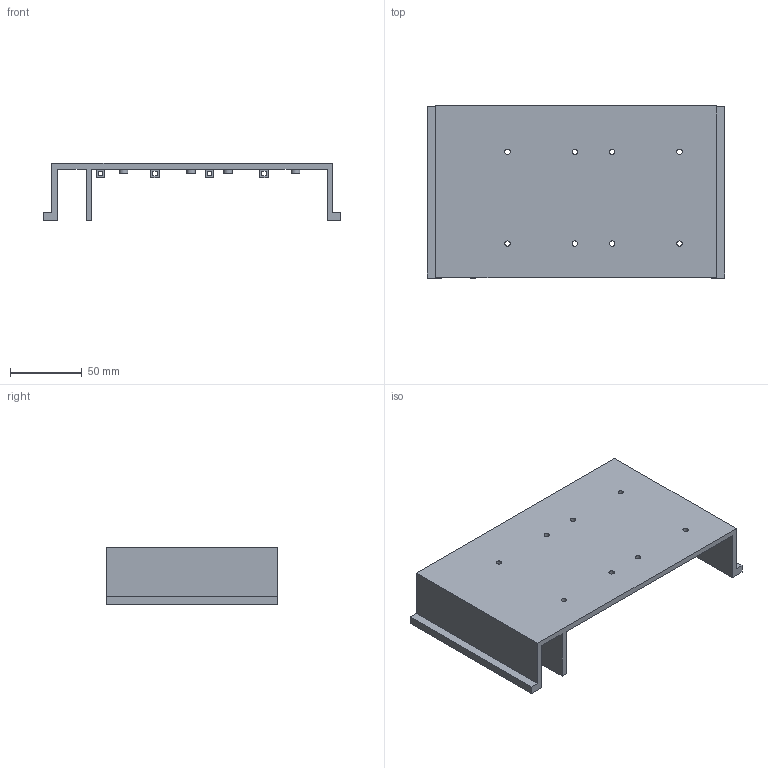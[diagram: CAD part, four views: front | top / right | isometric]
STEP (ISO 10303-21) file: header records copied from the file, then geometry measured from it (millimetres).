
FILE_DESCRIPTION(/* description */ (''),/* implementation_level */ '2;1');
FILE_NAME(/* name */ '/Users/davidflorian/Library/Mobile Documents/com~apple~CloudDocs/Vanderbilt/Papers/OTTO/Supplemental Material/3D-Printable-Components-STEP-Files/Electronics-Tray-3.step',/* time_stamp */ '2020-06-30T23:20:54-05:00',/* author */ (''),/* organization */ (''),/* preprocessor_version */ 'ST-DEVELOPER v18.1',/* originating_system */ 'Autodesk Translation Framework v9.3.0.1241',/* authorisation */ '');
FILE_SCHEMA (('AUTOMOTIVE_DESIGN { 1 0 10303 214 3 1 1 }'));
Length unit declared in the file: millimetre
Products named in the file (1): Electronics-Tray-3
Bounding box: 207.6 x 120 x 40 mm (x, y, z)
Volume: 153014.4 mm3; surface area: 80313.3 mm2
Topology: 1 solids, 1 shells, 78 faces, 198 edges, 132 vertices
Faces by surface type: plane 61, cylinder 17
Full cylindrical faces by diameter (mm): 3.75 x8, 6 x8
Entity records: 2421 total; most frequent: CARTESIAN_POINT 409, ORIENTED_EDGE 396, DIRECTION 390, EDGE_CURVE 198, LINE 164, VECTOR 164, VERTEX_POINT 132, EDGE_LOOP 114
